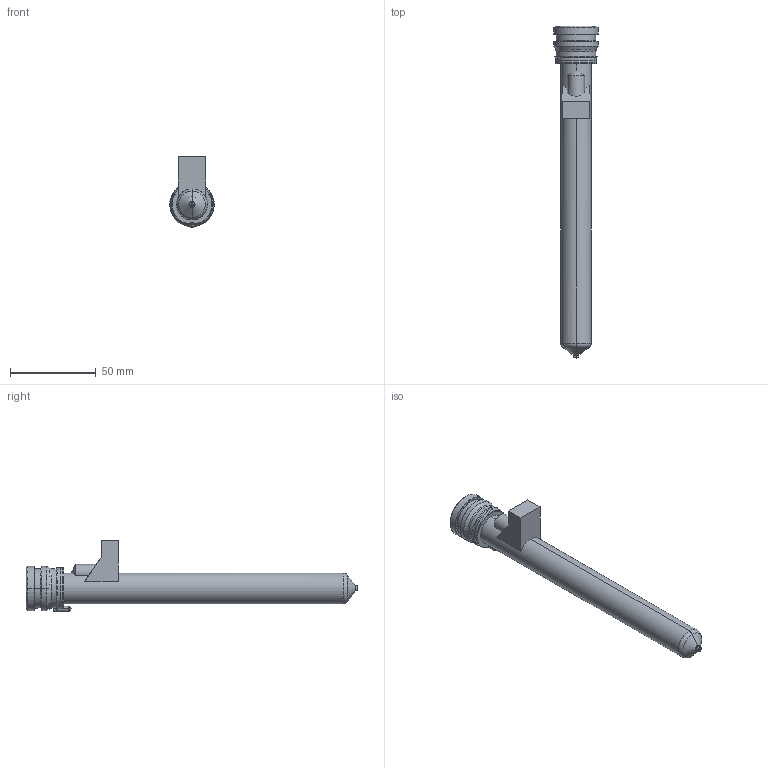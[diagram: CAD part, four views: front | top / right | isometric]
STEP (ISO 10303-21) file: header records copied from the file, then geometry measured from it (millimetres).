
FILE_DESCRIPTION((''),'2;1');
FILE_NAME('MPN-08-24-VP3-176-M','2026-02-05T13:33:25',('UPTIO'),('Thermoplay S.p.A.'),'CREO PARAMETRIC BY PTC INC, 2023494','CREO PARAMETRIC BY PTC INC, 2023494','');
FILE_SCHEMA(('CONFIG_CONTROL_DESIGN','SHAPE_APPEARANCE_LAYERS_GROUPS'));
Length unit declared in the file: millimetre
Products named in the file (1): MPN-08-24-VP3-176-M
Bounding box: 26 x 194.1 x 41.5 mm (x, y, z)
Volume: 36425.7 mm3; surface area: 48897 mm2
Topology: 2 solids, 3 shells, 571 faces, 1494 edges, 922 vertices
Faces by surface type: cylinder 178, plane 143, bspline 103, torus 68, cone 66, sphere 7, extrusion 6
Entity records: 30026 total; most frequent: CARTESIAN_POINT 13516, ORIENTED_EDGE 2970, DIRECTION 2631, EDGE_CURVE 1485, AXIS2_PLACEMENT_3D 1029, VERTEX_POINT 922, EDGE_LOOP 601, VECTOR 573
